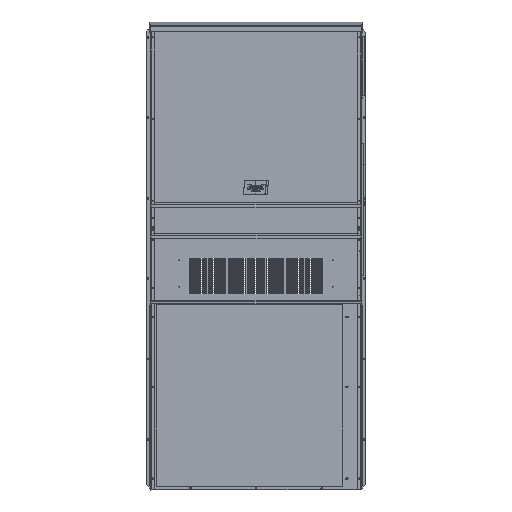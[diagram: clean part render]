
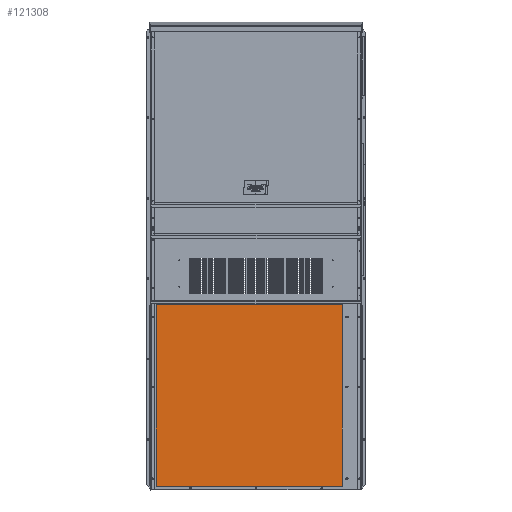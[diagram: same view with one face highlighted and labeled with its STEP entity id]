
A CAD part, top view. The second image highlights one B-rep face of the part: STEP entity #121308.
In plain terms, the highlighted planar face has unit normal (0, 0, 1).
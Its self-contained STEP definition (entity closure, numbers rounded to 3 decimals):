
#5199 = CARTESIAN_POINT ( 'NONE',  ( 38.071, 0.677, 0.026 ) ) ;
#6319 = ORIENTED_EDGE ( 'NONE', *, *, #66009, .F. ) ;
#6937 = CARTESIAN_POINT ( 'NONE',  ( 38.071, 36.787, 0.026 ) ) ;
#8862 = CARTESIAN_POINT ( 'NONE',  ( 1.069, 36.787, 0.026 ) ) ;
#12917 = ORIENTED_EDGE ( 'NONE', *, *, #77663, .F. ) ;
#17685 = CARTESIAN_POINT ( 'NONE',  ( 1.069, 0.677, 0.026 ) ) ;
#28515 = VECTOR ( 'NONE', #73062, 39.37 ) ;
#29437 = DIRECTION ( 'NONE',  ( 0., 1., 0. ) ) ;
#43207 = CARTESIAN_POINT ( 'NONE',  ( 38.071, 0.677, 0.026 ) ) ;
#44186 = CARTESIAN_POINT ( 'NONE',  ( 1.069, 0.677, 0.026 ) ) ;
#45750 = ORIENTED_EDGE ( 'NONE', *, *, #102994, .F. ) ;
#47737 = VERTEX_POINT ( 'NONE', #8862 ) ;
#51494 = VECTOR ( 'NONE', #101789, 39.37 ) ;
#52200 = DIRECTION ( 'NONE',  ( 0., 0., -1. ) ) ;
#53344 = VECTOR ( 'NONE', #151499, 39.37 ) ;
#59577 = LINE ( 'NONE', #143103, #28515 ) ;
#66009 = EDGE_CURVE ( 'NONE', #103053, #91053, #144828, .T. ) ;
#71095 = EDGE_LOOP ( 'NONE', ( #45750, #102268, #6319, #12917 ) ) ;
#73062 = DIRECTION ( 'NONE',  ( 1., 0., 0. ) ) ;
#74334 = LINE ( 'NONE', #17685, #132911 ) ;
#77663 = EDGE_CURVE ( 'NONE', #47737, #103053, #59577, .T. ) ;
#81383 = CARTESIAN_POINT ( 'NONE',  ( 38.071, 0.677, 0.026 ) ) ;
#91053 = VERTEX_POINT ( 'NONE', #43207 ) ;
#97788 = VERTEX_POINT ( 'NONE', #44186 ) ;
#101789 = DIRECTION ( 'NONE',  ( 0., -1., 0. ) ) ;
#102268 = ORIENTED_EDGE ( 'NONE', *, *, #122705, .F. ) ;
#102994 = EDGE_CURVE ( 'NONE', #97788, #47737, #74334, .T. ) ;
#103053 = VERTEX_POINT ( 'NONE', #6937 ) ;
#121308 = ADVANCED_FACE ( 'NONE', ( #141531 ), #122196, .F. ) ;
#122196 = PLANE ( 'NONE',  #145534 ) ;
#122705 = EDGE_CURVE ( 'NONE', #91053, #97788, #142970, .T. ) ;
#125866 = CARTESIAN_POINT ( 'NONE',  ( 38.071, 36.787, 0.026 ) ) ;
#132911 = VECTOR ( 'NONE', #29437, 39.37 ) ;
#133998 = DIRECTION ( 'NONE',  ( -1., 0., 0. ) ) ;
#141531 = FACE_OUTER_BOUND ( 'NONE', #71095, .T. ) ;
#142970 = LINE ( 'NONE', #81383, #53344 ) ;
#143103 = CARTESIAN_POINT ( 'NONE',  ( 1.069, 36.787, 0.026 ) ) ;
#144828 = LINE ( 'NONE', #125866, #51494 ) ;
#145534 = AXIS2_PLACEMENT_3D ( 'NONE', #5199, #52200, #133998 ) ;
#151499 = DIRECTION ( 'NONE',  ( -1., 0., 0. ) ) ;
